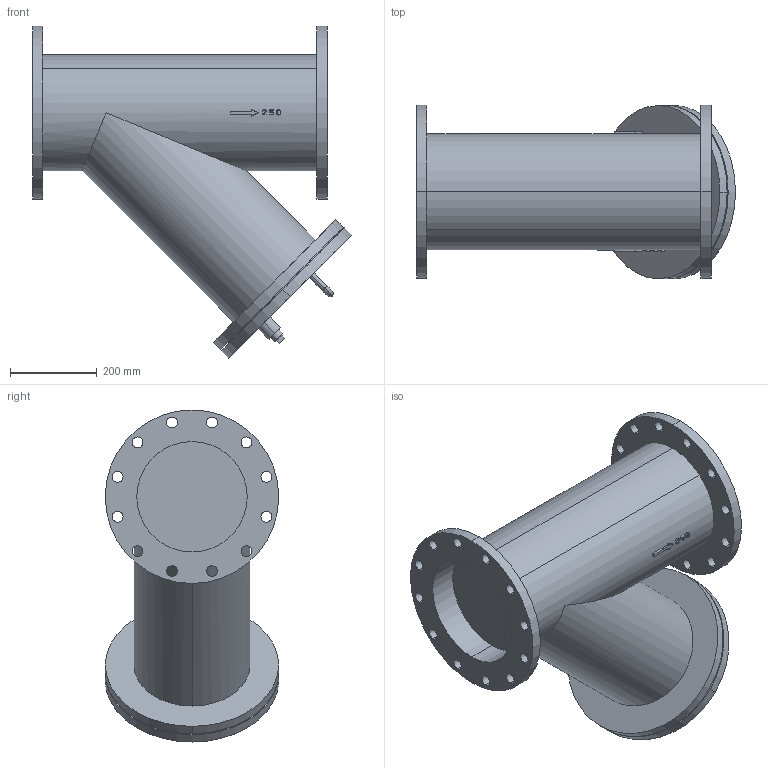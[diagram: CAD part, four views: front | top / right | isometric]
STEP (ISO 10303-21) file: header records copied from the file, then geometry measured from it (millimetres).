
FILE_DESCRIPTION( (''), '2;1');
FILE_NAME ('PC1056.26852.SY-13(250A)_7702.stp','2024-08-01T11:50:57',(''),(''),'spGate 19.8.4 (****-****-****-****)','','');
FILE_SCHEMA (('AUTOMOTIVE_DESIGN'));
Length unit declared in the file: millimetre
Products named in the file (12): Assembly; 250A本体P; 250Aカバー; PC1056-prt2; PC1056-prt3; PC1056-prt4; PC1056-prt5; PC1056-prt6; 250A取っ手_M7; 250A取っ手_M8; 250A取っ手_M9; プラグ　20A
Assembly tree (12 placements, depth 2):
  Assembly
    250A本体P
    250Aカバー
    PC1056-prt2
    PC1056-prt3
    PC1056-prt4
    PC1056-prt5
    PC1056-prt6  x2
    250A取っ手_M7
    250A取っ手_M8
    250A取っ手_M9
    プラグ　20A
Bounding box: 735.64 x 400 x 765.64 mm (x, y, z)
Volume: 62990460.6 mm3; surface area: 1898253.3 mm2
Topology: 6 solids, 6 shells, 204 faces, 496 edges, 328 vertices
Faces by surface type: cylinder 106, plane 57, bspline 41
Entity records: 12959 total; most frequent: CARTESIAN_POINT 4154, ORIENTED_EDGE 980, DIRECTION 909, COLOUR_RGB 705, PRESENTATION_STYLE_ASSIGNMENT 705, STYLED_ITEM 705, DRAUGHTING_PRE_DEFINED_CURVE_FONT 495, CURVE_STYLE 495
